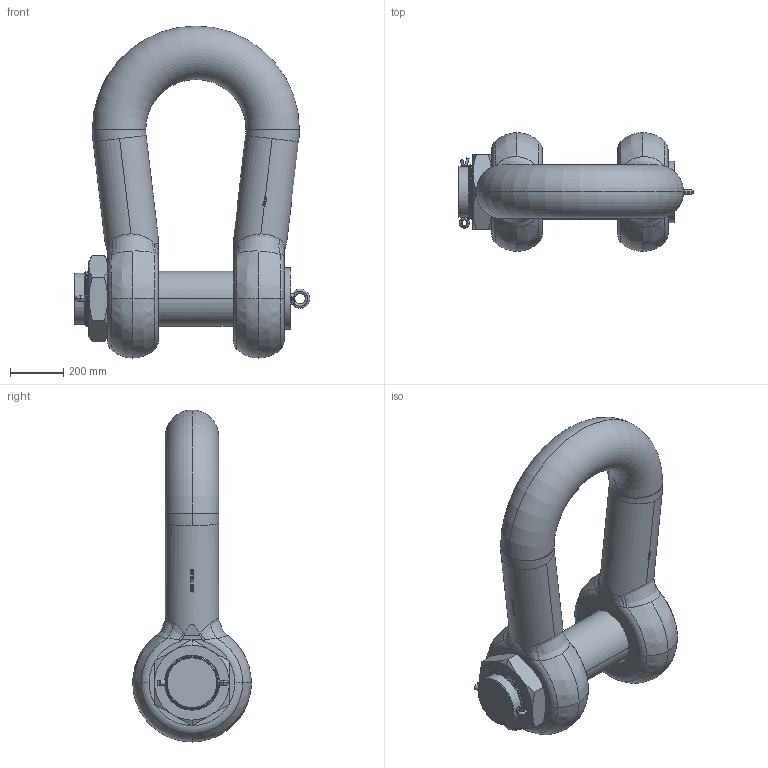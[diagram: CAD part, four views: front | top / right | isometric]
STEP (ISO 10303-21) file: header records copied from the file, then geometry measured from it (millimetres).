
FILE_DESCRIPTION(('STEP AP214'),'1');
FILE_NAME('hdgphm0600.stp','2017-06-30T09:24:31',('TraceParts'),('TraceParts S.A.'),'Spatial InterOp 3D',' ',' ');
FILE_SCHEMA(('automotive_design'));
Length unit declared in the file: millimetre
Products named in the file (5): HDGPHM0600|HDGPHM0600_1#HDGPHM0600_1;MANIFOLD_SOLID_BREP #21253; HDGPHM0600|HDGPHM0600_1#HDGPHM0600_2;MANIFOLD_SOLID_BREP #40172; hdgphm0600_3; hdgphm0600_4; hdgphm0600_5
Bounding box: 881 x 444 x 1242.49 mm (x, y, z)
Volume: 122063844 mm3; surface area: 3018597.6 mm2
Topology: 5 solids, 5 shells, 1284 faces, 5530 edges, 4305 vertices
Faces by surface type: bspline 502, plane 382, cylinder 338, torus 36, cone 26
Entity records: 108066 total; most frequent: CARTESIAN_POINT 61306, ORIENTED_EDGE 11056, EDGE_CURVE 5528, VERTEX_POINT 4305, B_SPLINE_CURVE_WITH_KNOTS 4277, DIRECTION 2875, EDGE_LOOP 1345, STYLED_ITEM 1289
